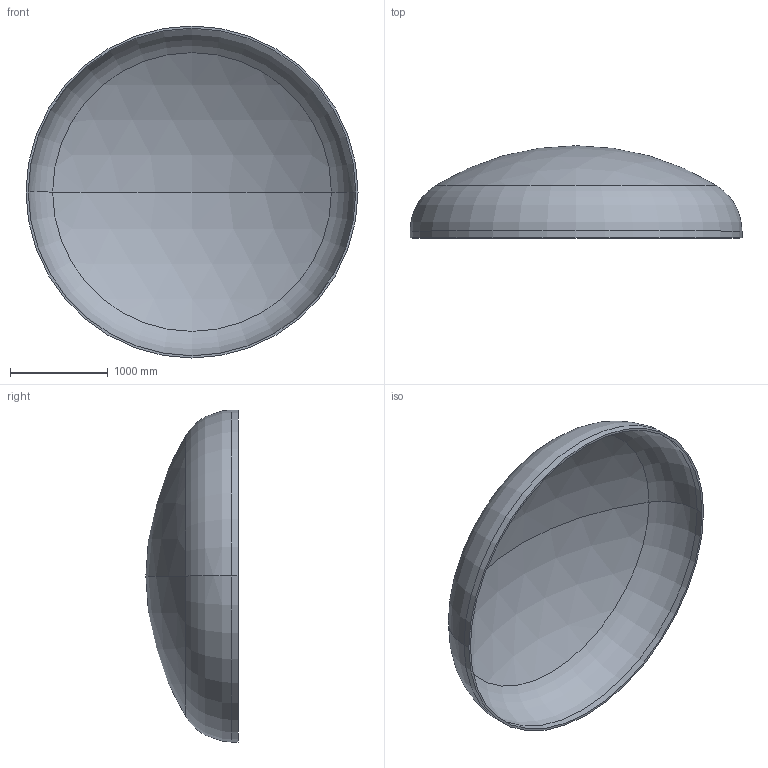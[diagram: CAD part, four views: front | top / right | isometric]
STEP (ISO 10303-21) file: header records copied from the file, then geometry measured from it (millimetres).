
FILE_DESCRIPTION (( 'STEP AP203' ), '1' );
FILE_NAME ('DIN 28013 Korbbogenform_-_Boden DIN 28013 - 3400 x 70 - I - s=23.step', '2016-07-01T19:18:09', ( '' ), ( '' ), 'SwSTEP 2.0', 'SolidWorks 2013', '' );
FILE_SCHEMA (( 'CONFIG_CONTROL_DESIGN' ));
Length unit declared in the file: millimetre
Products named in the file (1): DIN 28013 Korbbogenform_-_Boden DIN 28013 - 3400 x 70 - I - s=23
Bounding box: 3400 x 944.6 x 3400 mm (x, y, z)
Volume: 303874401.5 mm3; surface area: 26668969.4 mm2
Topology: 1 solids, 1 shells, 13 faces, 24 edges, 14 vertices
Faces by surface type: torus 4, cylinder 4, sphere 4, plane 1
Entity records: 407 total; most frequent: DIRECTION 72, CARTESIAN_POINT 52, ORIENTED_EDGE 48, AXIS2_PLACEMENT_3D 34, EDGE_CURVE 24, CIRCLE 20, VERTEX_POINT 14, EDGE_LOOP 14
